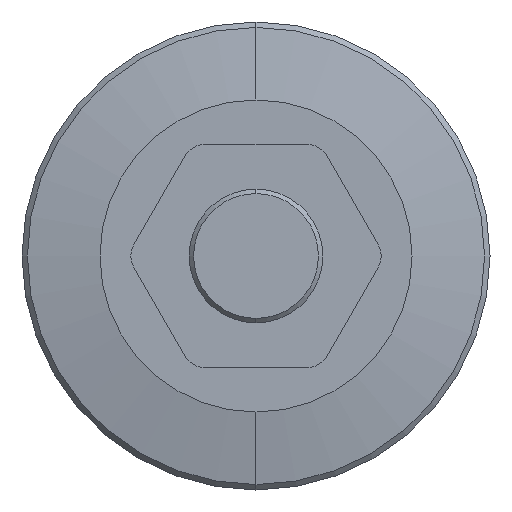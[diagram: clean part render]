
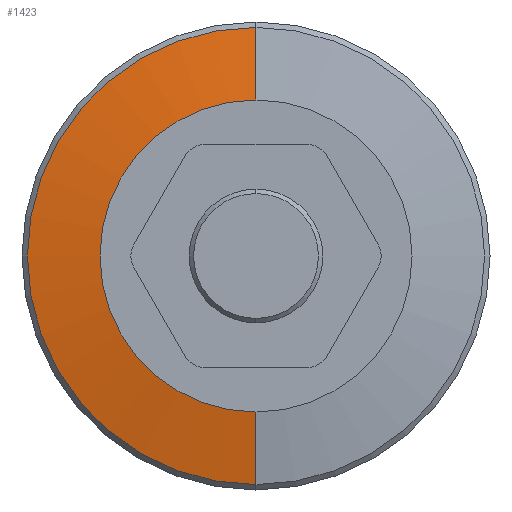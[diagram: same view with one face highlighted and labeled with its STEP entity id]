
A CAD part, left-side view. The second image highlights one B-rep face of the part: STEP entity #1423.
In plain terms, the highlighted conical face has half-angle 80 degrees and reference radius 10.5 mm.
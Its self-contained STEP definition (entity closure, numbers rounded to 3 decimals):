
#114 = DIRECTION ( 'NONE',  ( 0., 0., 1. ) ) ;
#123 = DIRECTION ( 'NONE',  ( -1., 0., 0. ) ) ;
#129 = CARTESIAN_POINT ( 'NONE',  ( 20.574, 0., 0. ) ) ;
#138 = CONICAL_SURFACE ( 'NONE', #737, 10.5, 1.396 ) ;
#160 = CARTESIAN_POINT ( 'NONE',  ( 20., 0., 7. ) ) ;
#187 = DIRECTION ( 'NONE',  ( 0.174, 0., 0.985 ) ) ;
#188 = ORIENTED_EDGE ( 'NONE', *, *, #1220, .F. ) ;
#197 = EDGE_CURVE ( 'NONE', #1023, #512, #546, .T. ) ;
#220 = EDGE_CURVE ( 'NONE', #1023, #1388, #1068, .T. ) ;
#288 = DIRECTION ( 'NONE',  ( -1., 0., 0. ) ) ;
#304 = CARTESIAN_POINT ( 'NONE',  ( 20., 0., 0. ) ) ;
#306 = VECTOR ( 'NONE', #1195, 1000. ) ;
#321 = DIRECTION ( 'NONE',  ( 0., 0., 1. ) ) ;
#411 = CARTESIAN_POINT ( 'NONE',  ( 20.617, 0., 10.5 ) ) ;
#424 = CARTESIAN_POINT ( 'NONE',  ( 20.617, 0., -10.5 ) ) ;
#426 = EDGE_CURVE ( 'NONE', #1388, #1153, #964, .T. ) ;
#488 = DIRECTION ( 'NONE',  ( 0., 0., -1. ) ) ;
#512 = VERTEX_POINT ( 'NONE', #1409 ) ;
#546 = CIRCLE ( 'NONE', #1094, 7. ) ;
#587 = CARTESIAN_POINT ( 'NONE',  ( 20.574, 0., 10.257 ) ) ;
#737 = AXIS2_PLACEMENT_3D ( 'NONE', #932, #1151, #488 ) ;
#774 = VECTOR ( 'NONE', #187, 1000. ) ;
#804 = FACE_OUTER_BOUND ( 'NONE', #1414, .T. ) ;
#867 = LINE ( 'NONE', #424, #306 ) ;
#893 = ORIENTED_EDGE ( 'NONE', *, *, #220, .T. ) ;
#925 = AXIS2_PLACEMENT_3D ( 'NONE', #129, #123, #114 ) ;
#932 = CARTESIAN_POINT ( 'NONE',  ( 20.617, 0., 0. ) ) ;
#964 = CIRCLE ( 'NONE', #925, 10.257 ) ;
#1023 = VERTEX_POINT ( 'NONE', #160 ) ;
#1068 = LINE ( 'NONE', #411, #774 ) ;
#1076 = CARTESIAN_POINT ( 'NONE',  ( 20.574, 0., -10.257 ) ) ;
#1094 = AXIS2_PLACEMENT_3D ( 'NONE', #304, #288, #321 ) ;
#1151 = DIRECTION ( 'NONE',  ( 1., 0., 0. ) ) ;
#1153 = VERTEX_POINT ( 'NONE', #1076 ) ;
#1195 = DIRECTION ( 'NONE',  ( 0.174, 0., -0.985 ) ) ;
#1220 = EDGE_CURVE ( 'NONE', #512, #1153, #867, .T. ) ;
#1345 = ORIENTED_EDGE ( 'NONE', *, *, #426, .T. ) ;
#1388 = VERTEX_POINT ( 'NONE', #587 ) ;
#1409 = CARTESIAN_POINT ( 'NONE',  ( 20., 0., -7. ) ) ;
#1414 = EDGE_LOOP ( 'NONE', ( #1422, #893, #1345, #188 ) ) ;
#1422 = ORIENTED_EDGE ( 'NONE', *, *, #197, .F. ) ;
#1423 = ADVANCED_FACE ( 'NONE', ( #804 ), #138, .T. ) ;
